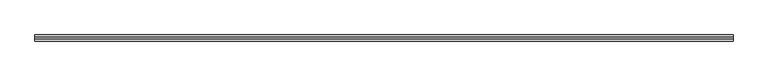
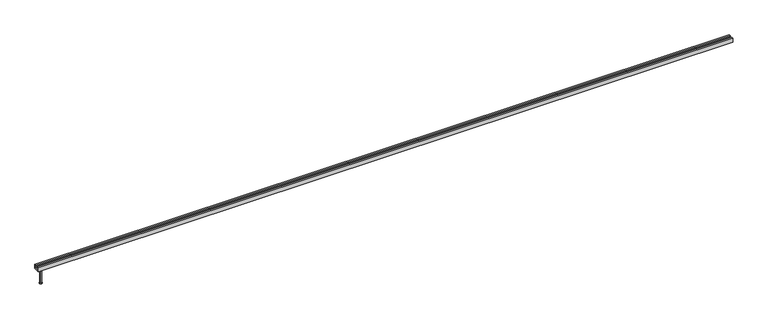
"""IFC4 building model written with IfcOpenShell, lengths in millimetres: fastener geometry, JTA-W JORDAHL® AnchorChannels : JTA-W L=6000 mm."""

from ifc_helpers import new_model, si_unit, frame, origin, place, context, project, spatial, polyline, circle_curve, outline, extrude, source, transform, mapped, element, save
from ifc_brep_helpers import plane_surface, cylinder_surface, revolved_surface, advanced_brep


def fastener_d1a5e5d3(model_context):
    return source(origin(), model_context, "Body", "SolidModel", [
        advanced_brep(
        [(35.0, 0.0, -34.0), (17.5, 0.0, -34.0), (52.5, 0.0, -34.0), (23.2, 0.0, -165.0), (35.0, 0.0, -165.0), (46.8, 0.0, -165.0), (23.2, 0.0, -163.0), (46.8, 0.0, -163.0), (29.2, 0.0, -159.5358984), (40.8, 0.0, -159.5358984), (29.2, 0.0, -37.0), (40.8, 0.0, -37.0)],
        [
            (0, 1),
            (1, 2, circle_curve(frame((35.0, 0.0, -34.0), z_axis=(0.0, 0.0, 1.0), x_axis=(1.0, 0.0, 0.0)), 17.5)),
            (2, 0),
            (2, 1, circle_curve(frame((35.0, 0.0, -34.0), z_axis=(0.0, 0.0, 1.0), x_axis=(1.0, 0.0, 0.0)), 17.5)),
            (3, 4),
            (4, 5),
            (5, 3, circle_curve(frame((35.0, 0.0, -165.0), z_axis=(0.0, 0.0, -1.0), x_axis=(1.0, 0.0, 0.0)), 11.8)),
            (3, 5, circle_curve(frame((35.0, 0.0, -165.0), z_axis=(0.0, 0.0, -1.0), x_axis=(1.0, 0.0, 0.0)), 11.8)),
            (6, 3),
            (5, 7),
            (7, 6, circle_curve(frame((35.0, 0.0, -163.0), z_axis=(0.0, 0.0, -1.0), x_axis=(1.0, 0.0, 0.0)), 11.8)),
            (6, 7, circle_curve(frame((35.0, 0.0, -163.0), z_axis=(0.0, 0.0, -1.0), x_axis=(1.0, 0.0, 0.0)), 11.8)),
            (8, 6),
            (7, 9),
            (9, 8, circle_curve(frame((35.0, 0.0, -159.5358984), z_axis=(0.0, 0.0, -1.0), x_axis=(1.0, 0.0, 0.0)), 5.8)),
            (8, 9, circle_curve(frame((35.0, 0.0, -159.5358984), z_axis=(0.0, 0.0, -1.0), x_axis=(1.0, 0.0, 0.0)), 5.8)),
            (10, 8),
            (9, 11),
            (11, 10, circle_curve(frame((35.0, 0.0, -37.0), z_axis=(0.0, 0.0, -1.0), x_axis=(1.0, 0.0, 0.0)), 5.8)),
            (10, 11, circle_curve(frame((35.0, 0.0, -37.0), z_axis=(0.0, 0.0, -1.0), x_axis=(1.0, 0.0, 0.0)), 5.8)),
            (1, 10),
            (11, 2),
        ],
        [
            plane_surface(frame((35.0, 0.0, -34.0), z_axis=(0.0, 0.0, 1.0), x_axis=(1.0, 0.0, 0.0))),
            plane_surface(frame((35.0, 0.0, -165.0), z_axis=(0.0, 0.0, -1.0), x_axis=(1.0, 0.0, 0.0))),
            cylinder_surface(frame((35.0, 0.0, 2345.3150031), z_axis=(0.0, 0.0, 1.0), x_axis=(1.0, 0.0, 0.0)), 11.8),
            revolved_surface(polyline([(46.8, 0.0, -163.0), (40.8, 0.0, -159.5358984)]), (35.0, 0.0, 2345.3150031), (0.0, 0.0, 1.0)),
            cylinder_surface(frame((35.0, 0.0, 2345.3150031), z_axis=(0.0, 0.0, 1.0), x_axis=(1.0, 0.0, 0.0)), 5.8),
            revolved_surface(polyline([(40.8, 0.0, -37.0), (52.5, 0.0, -34.0)]), (35.0, 0.0, 2345.3150031), (0.0, 0.0, 1.0)),
        ],
        [
            (0, [[1, 2, 3]]),
            (0, [[-3, 4, -1]]),
            (1, [[5, 6, 7]]),
            (1, [[-6, -5, 8]]),
            (2, [[9, -7, 10, 11]]),
            (2, [[-10, -8, -9, 12]]),
            (3, [[13, -11, 14, 15]]),
            (3, [[-14, -12, -13, 16]]),
            (4, [[17, -15, 18, 19]]),
            (4, [[-18, -16, -17, 20]]),
            (5, [[21, -19, 22, -2]]),
            (5, [[-22, -20, -21, -4]]),
        ],
    ),
        extrude(outline(polyline([(-26.5, 0.0), (-11.25, 0.0), (-11.25, -6.5), (-22.5, -6.5), (-22.5, -30.0), (22.5, -30.0), (22.5, -6.5), (11.25, -6.5), (11.25, 0.0), (26.5, 0.0), (26.5, -34.0), (-26.5, -34.0), (-26.5, 0.0)])), frame((0.0, 0.0, 0.0), z_axis=(1.0, 0.0, 0.0), x_axis=(0.0, 1.0, 0.0)), (0.0, 0.0, 1.0), 6000.0),
    ])


if __name__ == "__main__":
    model = new_model("IFC4")
    model_context = context("Model", 3, world=origin())
    ifc_project = project(units=[si_unit("LENGTHUNIT", "METRE", prefix="MILLI")], contexts=[model_context])
    site = spatial("IfcSite", under=ifc_project)
    building = spatial("IfcBuilding", under=site)
    placement = place(None, origin())
    fastener_shape = fastener_d1a5e5d3(model_context)
    element("IfcFastener", 1, ObjectType="JTA-W JORDAHL® AnchorChannels : JTA-W L=6000 mm", at=placement, inside=building, context=model_context, shape_type="MappedRepresentation", body=[
        mapped(fastener_shape, transform((0.0, 0.0, 0.0), x_axis=(1.0, 0.0, 0.0), y_axis=(0.0, 1.0, 0.0), z_axis=(0.0, 0.0, 1.0))),
    ])
    save(model, "model.ifc")
